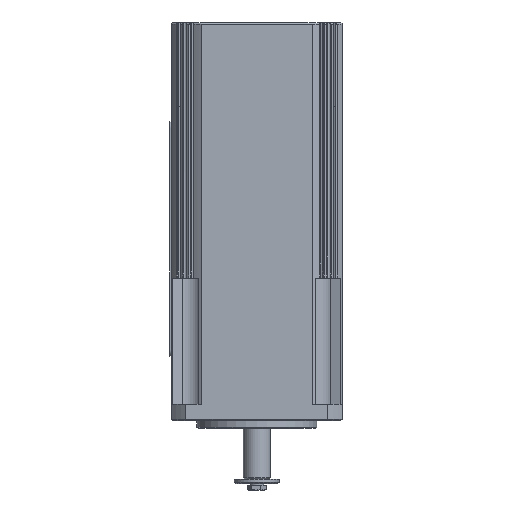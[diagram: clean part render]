
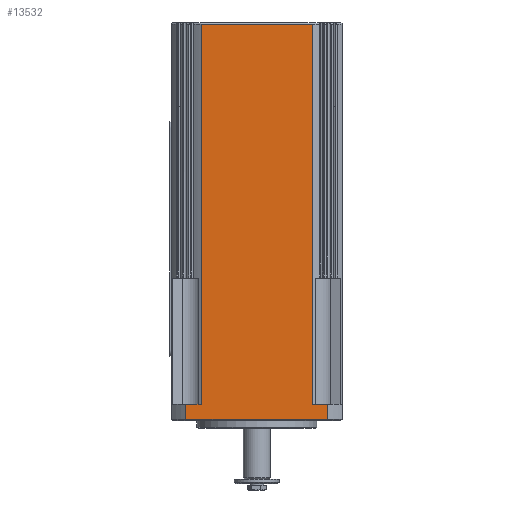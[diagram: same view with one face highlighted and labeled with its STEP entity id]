
A CAD part, front view. The second image highlights one B-rep face of the part: STEP entity #13532.
In plain terms, the highlighted planar face has unit normal (0, -1, 0).
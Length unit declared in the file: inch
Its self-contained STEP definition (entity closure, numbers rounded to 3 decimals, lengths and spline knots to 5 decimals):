
#517=LINE('',#21326,#1312);
#520=LINE('',#21342,#1315);
#553=LINE('',#21551,#1348);
#562=LINE('',#21593,#1357);
#565=LINE('',#21597,#1360);
#744=LINE('',#22534,#1539);
#772=LINE('',#22621,#1567);
#793=LINE('',#22724,#1588);
#1312=VECTOR('',#17052,0.19902);
#1315=VECTOR('',#17065,0.19902);
#1348=VECTOR('',#17246,1.85792);
#1357=VECTOR('',#17281,0.19685);
#1360=VECTOR('',#17286,0.19685);
#1539=VECTOR('',#17803,4.98031);
#1567=VECTOR('',#17895,4.98031);
#1588=VECTOR('',#17982,1.45988);
#2425=PLANE('',#14890);
#4246=FACE_OUTER_BOUND('',#5214,.T.);
#5214=EDGE_LOOP('',(#11616,#11617,#11618,#11619,#11620,#11621,#11622,#11623));
#6959=VERTEX_POINT('',#21311);
#6966=VERTEX_POINT('',#21324);
#6973=VERTEX_POINT('',#21339);
#6974=VERTEX_POINT('',#21341);
#7054=VERTEX_POINT('',#21537);
#7056=VERTEX_POINT('',#21546);
#7288=VERTEX_POINT('',#22532);
#7306=VERTEX_POINT('',#22620);
#8426=EDGE_CURVE('',#6959,#6966,#517,.T.);
#8433=EDGE_CURVE('',#6974,#6973,#520,.T.);
#8519=EDGE_CURVE('',#7056,#7054,#553,.T.);
#8536=EDGE_CURVE('',#6966,#7054,#562,.T.);
#8539=EDGE_CURVE('',#6974,#7056,#565,.T.);
#8846=EDGE_CURVE('',#6973,#7288,#744,.T.);
#8887=EDGE_CURVE('',#6959,#7306,#772,.T.);
#8929=EDGE_CURVE('',#7306,#7288,#793,.T.);
#11616=ORIENTED_EDGE('',*,*,#8887,.F.);
#11617=ORIENTED_EDGE('',*,*,#8426,.T.);
#11618=ORIENTED_EDGE('',*,*,#8536,.T.);
#11619=ORIENTED_EDGE('',*,*,#8519,.F.);
#11620=ORIENTED_EDGE('',*,*,#8539,.F.);
#11621=ORIENTED_EDGE('',*,*,#8433,.T.);
#11622=ORIENTED_EDGE('',*,*,#8846,.T.);
#11623=ORIENTED_EDGE('',*,*,#8929,.F.);
#13532=ADVANCED_FACE('',(#4246),#2425,.T.);
#14890=AXIS2_PLACEMENT_3D('',#22723,#17980,#17981);
#17052=DIRECTION('',(-1.,0.,0.));
#17065=DIRECTION('',(-1.,0.,0.));
#17246=DIRECTION('',(-1.,0.,0.));
#17281=DIRECTION('',(0.,0.,-1.));
#17286=DIRECTION('',(0.,0.,-1.));
#17803=DIRECTION('',(0.,0.,1.));
#17895=DIRECTION('',(0.,0.,1.));
#17980=DIRECTION('center_axis',(0.,-1.,0.));
#17981=DIRECTION('ref_axis',(0.,0.,-1.));
#17982=DIRECTION('',(1.,0.,0.));
#21311=CARTESIAN_POINT('',(-0.72994,-1.12205,0.));
#21324=CARTESIAN_POINT('',(-0.92896,-1.12205,0.));
#21326=CARTESIAN_POINT('',(0.92896,-1.12205,0.));
#21339=CARTESIAN_POINT('',(0.72994,-1.12205,0.));
#21341=CARTESIAN_POINT('',(0.92896,-1.12205,0.));
#21342=CARTESIAN_POINT('',(0.92896,-1.12205,0.));
#21537=CARTESIAN_POINT('',(-0.92896,-1.12205,-0.19685));
#21546=CARTESIAN_POINT('',(0.92896,-1.12205,-0.19685));
#21551=CARTESIAN_POINT('',(-0.46448,-1.12205,-0.19685));
#21593=CARTESIAN_POINT('',(-0.92896,-1.12205,0.));
#21597=CARTESIAN_POINT('',(0.92896,-1.12205,0.));
#22532=CARTESIAN_POINT('',(0.72994,-1.12205,4.98031));
#22534=CARTESIAN_POINT('',(0.72994,-1.12205,0.));
#22620=CARTESIAN_POINT('',(-0.72994,-1.12205,4.98031));
#22621=CARTESIAN_POINT('',(-0.72994,-1.12205,0.));
#22723=CARTESIAN_POINT('Origin',(0.,-1.12205,
0.));
#22724=CARTESIAN_POINT('',(0.,-1.12205,4.98031));
